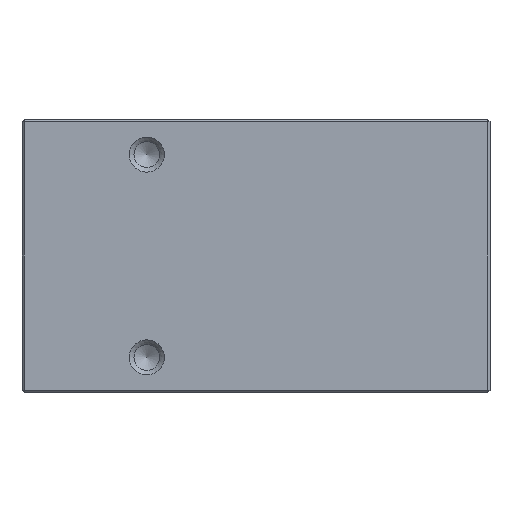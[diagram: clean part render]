
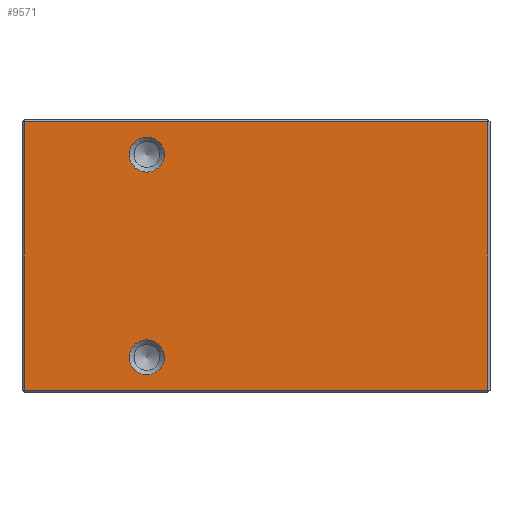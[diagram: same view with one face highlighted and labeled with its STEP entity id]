
A CAD part, front view. The second image highlights one B-rep face of the part: STEP entity #9571.
In plain terms, the highlighted planar face has unit normal (0, -1, 0).
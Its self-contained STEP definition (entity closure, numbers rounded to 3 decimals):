
#137=FACE_BOUND('',#1603,.T.);
#138=FACE_BOUND('',#1604,.T.);
#1022=FACE_OUTER_BOUND('',#1602,.T.);
#1602=EDGE_LOOP('',(#7575,#7576,#7577,#7578));
#1603=EDGE_LOOP('',(#7579));
#1604=EDGE_LOOP('',(#7580));
#1859=CIRCLE('',#10032,2.25);
#1860=CIRCLE('',#10033,2.25);
#2656=LINE('',#16249,#3387);
#2681=LINE('',#16301,#3412);
#2702=LINE('',#16344,#3433);
#2704=LINE('',#16348,#3435);
#3387=VECTOR('',#11402,10.);
#3412=VECTOR('',#11457,10.);
#3433=VECTOR('',#11506,10.);
#3435=VECTOR('',#11512,10.);
#4150=VERTEX_POINT('',#16225);
#4155=VERTEX_POINT('',#16239);
#4157=VERTEX_POINT('',#16245);
#4168=VERTEX_POINT('',#16295);
#4190=VERTEX_POINT('',#16381);
#4191=VERTEX_POINT('',#16383);
#5283=EDGE_CURVE('',#4150,#4157,#2656,.T.);
#5310=EDGE_CURVE('',#4168,#4155,#2681,.T.);
#5333=EDGE_CURVE('',#4157,#4168,#2702,.T.);
#5335=EDGE_CURVE('',#4155,#4150,#2704,.T.);
#5350=EDGE_CURVE('',#4190,#4190,#1859,.T.);
#5351=EDGE_CURVE('',#4191,#4191,#1860,.T.);
#7575=ORIENTED_EDGE('',*,*,#5310,.F.);
#7576=ORIENTED_EDGE('',*,*,#5333,.F.);
#7577=ORIENTED_EDGE('',*,*,#5283,.F.);
#7578=ORIENTED_EDGE('',*,*,#5335,.F.);
#7579=ORIENTED_EDGE('',*,*,#5350,.T.);
#7580=ORIENTED_EDGE('',*,*,#5351,.T.);
#8627=PLANE('',#10031);
#9571=ADVANCED_FACE('',(#1022,#137,#138),#8627,.T.);
#10031=AXIS2_PLACEMENT_3D('',#16380,#11549,#11550);
#10032=AXIS2_PLACEMENT_3D('',#16382,#11551,#11552);
#10033=AXIS2_PLACEMENT_3D('',#16384,#11553,#11554);
#11402=DIRECTION('',(0.,0.,1.));
#11457=DIRECTION('',(0.,0.,-1.));
#11506=DIRECTION('',(1.,0.,0.));
#11512=DIRECTION('',(-1.,0.,0.));
#11549=DIRECTION('center_axis',(0.,-1.,0.));
#11550=DIRECTION('ref_axis',(0.,0.,-1.));
#11551=DIRECTION('center_axis',(0.,1.,0.));
#11552=DIRECTION('ref_axis',(1.,0.,0.));
#11553=DIRECTION('center_axis',(0.,1.,0.));
#11554=DIRECTION('ref_axis',(1.,0.,0.));
#16225=CARTESIAN_POINT('',(0.3,0.,-17.2));
#16239=CARTESIAN_POINT('',(59.7,0.,-17.2));
#16245=CARTESIAN_POINT('',(0.3,0.,17.2));
#16249=CARTESIAN_POINT('',(0.3,0.,0.));
#16295=CARTESIAN_POINT('',(59.7,0.,17.2));
#16301=CARTESIAN_POINT('',(59.7,0.,0.));
#16344=CARTESIAN_POINT('',(45.,0.,17.2));
#16348=CARTESIAN_POINT('',(45.,0.,-17.2));
#16380=CARTESIAN_POINT('Origin',(60.,0.,0.));
#16381=CARTESIAN_POINT('',(13.75,0.,13.));
#16382=CARTESIAN_POINT('Origin',(16.,0.,13.));
#16383=CARTESIAN_POINT('',(13.75,0.,-13.));
#16384=CARTESIAN_POINT('Origin',(16.,0.,-13.));
